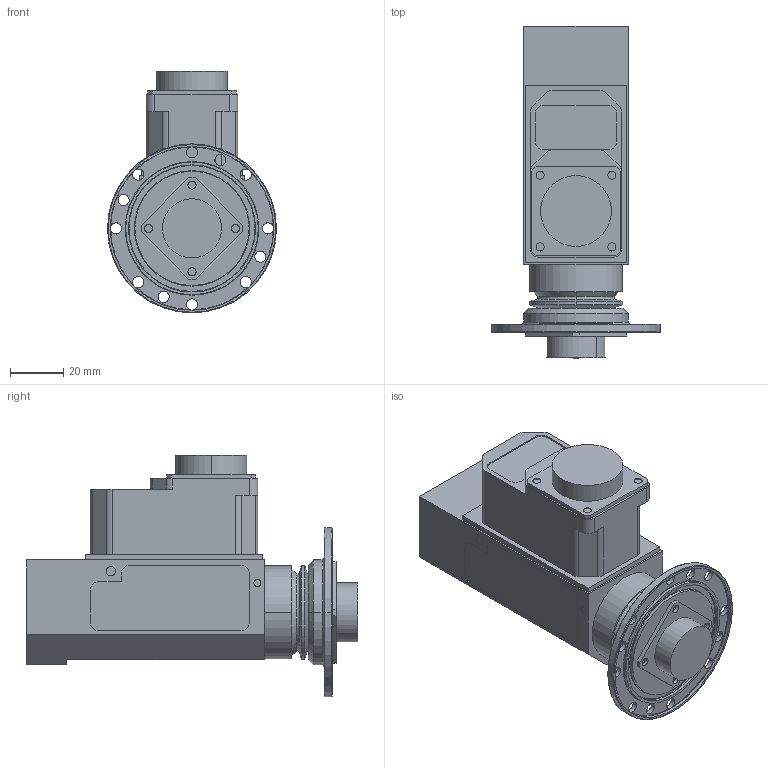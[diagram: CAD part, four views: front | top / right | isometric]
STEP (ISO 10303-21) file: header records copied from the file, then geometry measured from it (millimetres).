
FILE_DESCRIPTION (( 'STEP AP203' ), '1' );
FILE_NAME ('1010085.STEP', '2018-01-18T15:51:05', ( '' ), ( '' ), 'SwSTEP 2.0', 'SolidWorks 2014', '' );
FILE_SCHEMA (( 'CONFIG_CONTROL_DESIGN' ));
Length unit declared in the file: inch
Products named in the file (1): 1010085
Bounding box: 63.47 x 124.63 x 90.82 mm (x, y, z)
Volume: 222676.6 mm3; surface area: 32418.3 mm2
Topology: 1 solids, 1 shells, 229 faces, 582 edges, 376 vertices
Faces by surface type: cylinder 106, plane 91, cone 16, torus 14, bspline 2
Entity records: 7131 total; most frequent: DIRECTION 1296, CARTESIAN_POINT 1256, ORIENTED_EDGE 1156, EDGE_CURVE 578, AXIS2_PLACEMENT_3D 500, VERTEX_POINT 376, VECTOR 296, LINE 296
